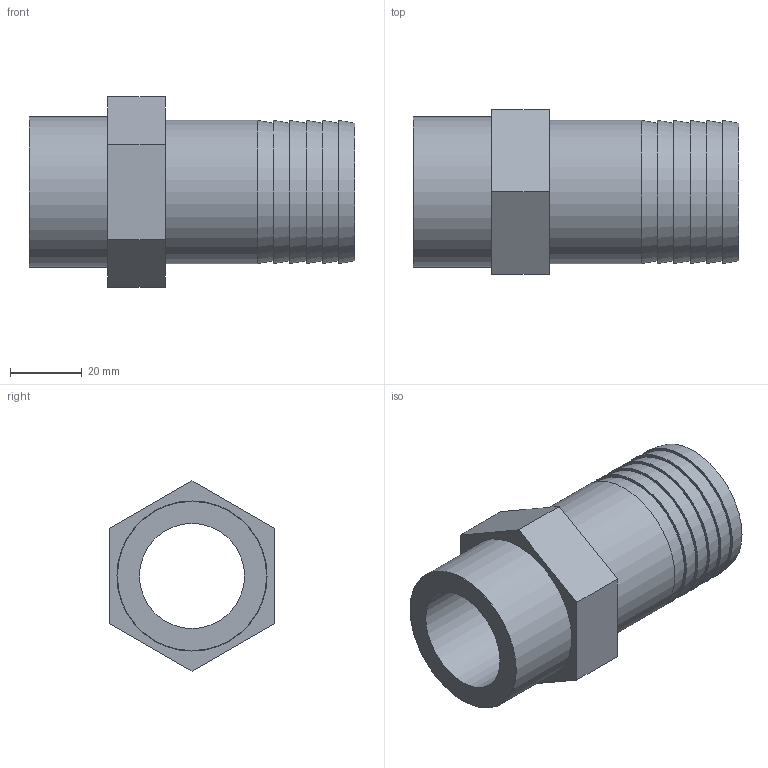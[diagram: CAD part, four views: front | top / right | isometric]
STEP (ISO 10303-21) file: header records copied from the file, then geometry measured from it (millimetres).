
FILE_DESCRIPTION(/* description */ ('PLASSON THREADED HOSE NOZZLE 1.1/4"-40'),/* implementation_level */ '2;1');
FILE_NAME(/* name */ 'C:\Dropbox\KIMPROJECTS-Inventor\99-16-3568-Processing\PVC Catalog 2017\053601\053601040013.ipt.stp',/* time_stamp */ '2017-12-07T16:03:24+02:00',/* author */ ('KIM'),/* organization */ (''),/* preprocessor_version */ 'ST-DEVELOPER v15.6',/* originating_system */ 'Autodesk Inventor 2015',/* authorisation */ '');
FILE_SCHEMA (('AUTOMOTIVE_DESIGN { 1 0 10303 214 3 1 1 }'));
Length unit declared in the file: millimetre
Products named in the file (1): 053601040013
Bounding box: 91 x 46 x 53.12 mm (x, y, z)
Volume: 63400.6 mm3; surface area: 23177.9 mm2
Topology: 1 solids, 1 shells, 25 faces, 46 edges, 30 vertices
Faces by surface type: plane 15, cone 6, cylinder 3, torus 1
Full cylindrical faces by diameter (mm): 29.337 x1, 40 x1, 41.91 x1
Entity records: 600 total; most frequent: DIRECTION 106, CARTESIAN_POINT 92, ORIENTED_EDGE 72, EDGE_LOOP 44, AXIS2_PLACEMENT_3D 44, EDGE_CURVE 36, VERTEX_POINT 30, FACE_OUTER_BOUND 25
